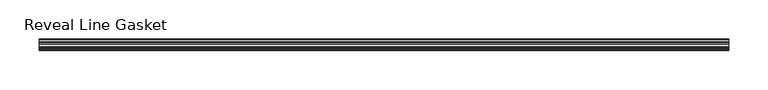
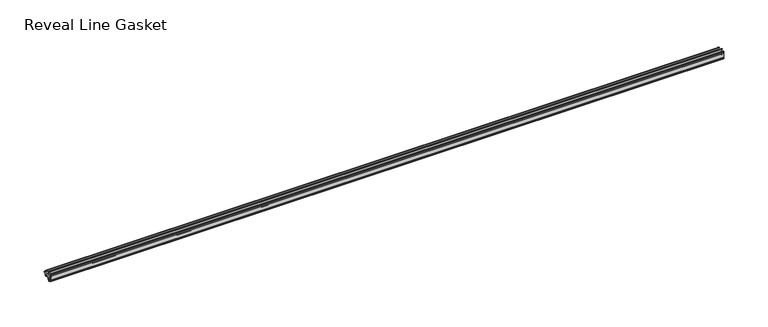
"""IFC4 building model written with IfcOpenShell, lengths in millimetres: proxy geometry, Accessories-Teknion-FHGR-AI_Healthcare-Reveal_Line_Gasket(Horizontal)-R2022 : Reveal Line Gasket."""

import ifcopenshell
import ifcopenshell.guid

model = None  # the IFC model being written
_history = None  # IfcOwnerHistory: only IFC2X3 demands one
_inside = {}  # id of a spatial element -> (the spatial element, [elements in it])
_under = {}  # id of a project, library or spatial element -> (it, [spatial elements below it])
_declared = {}  # id of a project -> (the project, [libraries it declares])
_typed = {}  # id of a type object -> (the type object, [elements of that type])
_made_of = {}  # id of a material, layer set ... -> (it, [elements and type objects made of it])


def new_model(schema):
    """Start an empty IFC model of exactly this schema.

    Asked for "IFC4X3", IfcOpenShell would pick the latest addendum, in which some entities
    have other attributes; the version numbers below select the first issue.
    IFC2X3 requires an IfcOwnerHistory on every rooted entity: one is made here for all.
    """
    global model, _history
    if schema == "IFC4X3":
        model = ifcopenshell.file(schema_version=(4, 3, 0, 0))
    else:
        model = ifcopenshell.file(schema=schema)
    _inside.clear()
    _under.clear()
    _declared.clear()
    _typed.clear()
    _made_of.clear()
    _history = None
    if model.schema == "IFC2X3":
        org = make("IfcOrganization", Name="unknown")
        user = make(
            "IfcPersonAndOrganization",
            ThePerson=make("IfcPerson", FamilyName="unknown"),
            TheOrganization=org,
        )
        app = make(
            "IfcApplication",
            ApplicationDeveloper=org,
            Version="unknown",
            ApplicationFullName="unknown",
            ApplicationIdentifier="unknown",
        )
        _history = make(
            "IfcOwnerHistory",
            OwningUser=user,
            OwningApplication=app,
            ChangeAction="ADDED",
            CreationDate=0,
        )
    return model


def make(cls, **values):
    """One entity of the class cls with the attributes given. An attribute that is None is left unset."""
    return model.create_entity(
        cls, **{name: value for name, value in values.items() if value is not None}
    )


def rooted(cls, **values):
    """An entity with a GlobalId (a new one), such as an element, a storey or a relation."""
    return make(cls, GlobalId=ifcopenshell.guid.new(), OwnerHistory=_history, **values)


def si_unit(unit_type, name, prefix=None):
    """IfcSIUnit, for example si_unit("LENGTHUNIT", "METRE", prefix="MILLI")."""
    return make("IfcSIUnit", UnitType=unit_type, Prefix=prefix, Name=name)


def assignment(units):
    """IfcUnitAssignment: the units of a project."""
    return None if units is None else make("IfcUnitAssignment", Units=units)


def point(xyz):
    """IfcCartesianPoint."""
    return None if xyz is None else make("IfcCartesianPoint", Coordinates=xyz)


def direction(xyz):
    """IfcDirection."""
    return None if xyz is None else make("IfcDirection", DirectionRatios=xyz)


def frame(location, z_axis=None, x_axis=None):
    """IfcAxis2Placement3D, a coordinate frame: its origin and axes. An axis left out is left unset."""
    return make(
        "IfcAxis2Placement3D",
        Location=point(location),
        Axis=direction(z_axis),
        RefDirection=direction(x_axis),
    )


def frame_2d(location, x_axis=None):
    """IfcAxis2Placement2D, a coordinate frame in the plane: its origin and x axis."""
    return make(
        "IfcAxis2Placement2D", Location=point(location), RefDirection=direction(x_axis)
    )


def origin():
    """The frame at (0, 0, 0) with its axes left unset."""
    return frame((0.0, 0.0, 0.0))


def place(relative_to, where):
    """IfcLocalPlacement: puts the frame where relative to a parent placement (None: the world)."""
    return make(
        "IfcLocalPlacement", PlacementRelTo=relative_to, RelativePlacement=where
    )


def context(
    kind, dimensions, precision=None, world=None, true_north=None, identifier=None
):
    """IfcGeometricRepresentationContext, for example the 3D "Model" context."""
    return make(
        "IfcGeometricRepresentationContext",
        ContextIdentifier=identifier,
        ContextType=kind,
        CoordinateSpaceDimension=dimensions,
        Precision=precision,
        WorldCoordinateSystem=world,
        TrueNorth=true_north,
    )


def project(units=None, contexts=None):
    """IfcProject with its units and contexts."""
    return rooted(
        "IfcProject",
        Name="project",
        RepresentationContexts=contexts,
        UnitsInContext=assignment(units),
    )


def spatial(cls, under=None, at=None, **own):
    """A site, building, storey or space (cls), placed at a placement, below another one or the project."""
    s = rooted(cls, ObjectPlacement=at, **own)
    if under is not None:
        _under.setdefault(under.id(), (under, []))[1].append(s)
    return s


def polyline(points):
    """IfcPolyline through the points."""
    return make("IfcPolyline", Points=[point(p) for p in points])


def circle_curve(where, radius):
    """IfcCircle in the frame where."""
    return make("IfcCircle", Position=where, Radius=radius)


def trimmed(basis, trim1, trim2, sense, master):
    """IfcTrimmedCurve: the piece of a basis curve between two trims."""
    return make(
        "IfcTrimmedCurve",
        BasisCurve=basis,
        Trim1=trim1,
        Trim2=trim2,
        SenseAgreement=sense,
        MasterRepresentation=master,
    )


def segment(curve, same_sense, transition):
    """IfcCompositeCurveSegment."""
    return make(
        "IfcCompositeCurveSegment",
        Transition=transition,
        SameSense=same_sense,
        ParentCurve=curve,
    )


def composite_curve(segments, self_intersect=None):
    """IfcCompositeCurve: segments joined end to end."""
    return make("IfcCompositeCurve", Segments=segments, SelfIntersect=self_intersect)


def outline(outer, holes=None, kind="AREA"):
    """IfcArbitraryClosedProfileDef: a profile drawn as a closed curve; with holes, ...WithVoids."""
    if holes is None:
        return make("IfcArbitraryClosedProfileDef", ProfileType=kind, OuterCurve=outer)
    return make(
        "IfcArbitraryProfileDefWithVoids",
        ProfileType=kind,
        OuterCurve=outer,
        InnerCurves=holes,
    )


def extrude(swept, where, along, depth):
    """IfcExtrudedAreaSolid: the profile swept, set in the frame where, extruded along a direction by depth."""
    return make(
        "IfcExtrudedAreaSolid",
        SweptArea=swept,
        Position=where,
        ExtrudedDirection=direction(along),
        Depth=depth,
    )


def shape(context_of_items, identifier, shape_type, items):
    """IfcShapeRepresentation: the items that make up one representation, for example the "Body"."""
    return make(
        "IfcShapeRepresentation",
        ContextOfItems=context_of_items,
        RepresentationIdentifier=identifier,
        RepresentationType=shape_type,
        Items=items,
    )


def source(mapping_origin, context_of_items, identifier, shape_type, items):
    """IfcRepresentationMap: a shape defined once, which mapped items show again and again."""
    return make(
        "IfcRepresentationMap",
        MappingOrigin=mapping_origin,
        MappedRepresentation=shape(context_of_items, identifier, shape_type, items),
    )


def transform(
    local_origin,
    x_axis=None,
    y_axis=None,
    z_axis=None,
    scale=None,
    scale2=None,
    scale3=None,
    uniform=True,
):
    """IfcCartesianTransformationOperator3D, or its non-uniform kind. x_axis, y_axis, z_axis: its Axis1, 2, 3."""
    if uniform:
        return make(
            "IfcCartesianTransformationOperator3D",
            Axis1=direction(x_axis),
            Axis2=direction(y_axis),
            LocalOrigin=point(local_origin),
            Scale=scale,
            Axis3=direction(z_axis),
        )
    return make(
        "IfcCartesianTransformationOperator3DnonUniform",
        Axis1=direction(x_axis),
        Axis2=direction(y_axis),
        LocalOrigin=point(local_origin),
        Scale=scale,
        Axis3=direction(z_axis),
        Scale2=scale2,
        Scale3=scale3,
    )


def mapped(mapping_source, mapping_target):
    """IfcMappedItem: shows the shape of a source again, moved by a transform."""
    return make(
        "IfcMappedItem", MappingSource=mapping_source, MappingTarget=mapping_target
    )


def made_of(thing, what):
    """Note that an element or type object is made of a material, layer set ...; save() writes the relation."""
    if what is not None:
        _made_of.setdefault(what.id(), (what, []))[1].append(thing)
    return thing


def element(
    cls,
    number,
    at=None,
    inside=None,
    cuts=None,
    type_object=None,
    material=None,
    context=None,
    identifier="Body",
    shape_type=None,
    held_by="IfcProductDefinitionShape",
    body=None,
    shapes=None,
    **own,
):
    """One element of the class cls, such as IfcWall. Its Tag is "e" and its number.

    at: its placement. inside: the storey or other place that contains it. cuts: it is an
    opening in that element (IfcRelVoidsElement). A single representation is given by context,
    identifier, shape_type and body (its items); several are given by shapes. held_by: the class
    of the entity that holds the representations. save() writes the other relations.
    """
    e = rooted(cls, Tag="e%d" % number, ObjectPlacement=at, **own)
    if body is not None:
        shapes = [shape(context, identifier, shape_type, body)]
    if shapes is not None:
        e.Representation = make(held_by, Representations=shapes)
    if inside is not None:
        _inside.setdefault(inside.id(), (inside, []))[1].append(e)
    if cuts is not None:
        rooted(
            "IfcRelVoidsElement", RelatingBuildingElement=cuts, RelatedOpeningElement=e
        )
    if type_object is not None:
        _typed.setdefault(type_object.id(), (type_object, []))[1].append(e)
    return made_of(e, material)


def aggregate(whole, parts):
    """IfcRelAggregates: a whole, such as a stair, and the parts it consists of."""
    return rooted("IfcRelAggregates", RelatingObject=whole, RelatedObjects=parts)


def save(model, path):
    """Write the relations noted so far, then the file.

    IfcRelAggregates (storeys below a building ...), IfcRelContainedInSpatialStructure (elements
    in a storey), IfcRelDefinesByType, IfcRelAssociatesMaterial and IfcRelDeclares: one each for
    every whole, place, type object, material and project.
    """
    for whole, parts in _under.values():
        aggregate(whole, parts)
    for where, things in _inside.values():
        rooted(
            "IfcRelContainedInSpatialStructure",
            RelatedElements=things,
            RelatingStructure=where,
        )
    for kind, things in _typed.values():
        rooted("IfcRelDefinesByType", RelatedObjects=things, RelatingType=kind)
    for what, things in _made_of.values():
        rooted("IfcRelAssociatesMaterial", RelatedObjects=things, RelatingMaterial=what)
    for by, libraries in _declared.values():
        rooted("IfcRelDeclares", RelatingContext=by, RelatedDefinitions=libraries)
    model.write(path)


def reveal_line_gasket_fa165ac6(model_context):
    return source(origin(), model_context, "Body", "SweptSolid", [
        extrude(outline(composite_curve([segment(polyline([(-7.6326998, 1603.2), (-7.4091917, 1604.1554927), (-6.8813059, 1605.0884684)]), True, "CONTINUOUS"), segment(trimmed(circle_curve(frame_2d((-6.5243141, 1604.8864793)), 0.4101739), [point((-6.8813059, 1605.0884684))], [point((-6.1246704, 1604.7941347))], False, "CARTESIAN"), True, "CONTINUOUS"), segment(polyline([(-6.1246704, 1604.7941347), (-6.3626997, 1603.0979086), (-6.3626997, 1601.0654527)]), True, "CONTINUOUS"), segment(trimmed(circle_curve(frame_2d((-5.6959605, 1601.4819258)), 0.786124), [point((-6.3626997, 1601.0654527))], [point((-5.0926996, 1600.977875))], True, "CARTESIAN"), True, "CONTINUOUS"), segment(polyline([(-5.0926996, 1600.977875), (-0.7492996, 1600.977875), (-3.7293824, 1606.1395295)]), True, "CONTINUOUS"), segment(trimmed(circle_curve(frame_2d((-3.3132479, 1606.2049761)), 0.4212495), [point((-3.7293824, 1606.1395295))], [point((-3.0485022, 1606.5326358))], False, "CARTESIAN"), True, "CONTINUOUS"), segment(polyline([(-3.0485022, 1606.5326358), (0.5742594, 1600.977875), (4.8262978, 1600.977875), (3.1660374, 1603.8535297)]), True, "CONTINUOUS"), segment(trimmed(circle_curve(frame_2d((3.5978728, 1603.9118855)), 0.4357605), [point((3.1660374, 1603.8535297))], [point((3.864328, 1604.2566881))], False, "CARTESIAN"), True, "CONTINUOUS"), segment(polyline([(3.864328, 1604.2566881), (6.1944059, 1600.977875), (7.6326998, 1600.977875), (7.6326998, 1599.422125), (6.1944059, 1599.422125), (3.864328, 1596.1433119)]), True, "CONTINUOUS"), segment(trimmed(circle_curve(frame_2d((3.5978728, 1596.4881145)), 0.4357605), [point((3.864328, 1596.1433119))], [point((3.1660374, 1596.5464703))], False, "CARTESIAN"), True, "CONTINUOUS"), segment(polyline([(3.1660374, 1596.5464703), (4.8262978, 1599.422125), (0.5742594, 1599.422125), (-3.0485022, 1593.8673642)]), True, "CONTINUOUS"), segment(trimmed(circle_curve(frame_2d((-3.3132479, 1594.1950239)), 0.4212495), [point((-3.0485022, 1593.8673642))], [point((-3.7293824, 1594.2604705))], False, "CARTESIAN"), True, "CONTINUOUS"), segment(polyline([(-3.7293824, 1594.2604705), (-0.7492996, 1599.422125), (-5.0926996, 1599.422125)]), True, "CONTINUOUS"), segment(trimmed(circle_curve(frame_2d((-5.6959605, 1598.9180742)), 0.786124), [point((-5.0926996, 1599.422125))], [point((-6.3626997, 1599.3345473))], True, "CARTESIAN"), True, "CONTINUOUS"), segment(polyline([(-6.3626997, 1599.3345473), (-6.3626997, 1597.3020914), (-6.1246704, 1595.6058653)]), True, "CONTINUOUS"), segment(trimmed(circle_curve(frame_2d((-6.5243141, 1595.5135207)), 0.4101739), [point((-6.1246704, 1595.6058653))], [point((-6.8813059, 1595.3115316))], False, "CARTESIAN"), True, "CONTINUOUS"), segment(polyline([(-6.8813059, 1595.3115316), (-7.4091917, 1596.2445073), (-7.6326998, 1597.2), (-7.6326998, 1603.2)]), True, "CONTINUOUS")], self_intersect=False)), frame((-441.5715701, 0.0, 0.0), z_axis=(1.0, 0.0, 0.0), x_axis=(0.0, 1.0, 0.0)), (0.0, 0.0, 1.0), 883.1431403),
    ])


if __name__ == "__main__":
    model = new_model("IFC4")
    model_context = context("Model", 3, world=origin())
    ifc_project = project(units=[si_unit("LENGTHUNIT", "METRE", prefix="MILLI")], contexts=[model_context])
    site = spatial("IfcSite", under=ifc_project)
    building = spatial("IfcBuilding", under=site)
    placement = place(None, origin())
    reveal_line_gasket_shape = reveal_line_gasket_fa165ac6(model_context)
    element("IfcBuildingElementProxy", 1, Name="Accessories-Teknion-FHGR-AI_Healthcare-Reveal_Line_Gasket(Horizontal)-R2022 : Reveal Line Gasket", ObjectType="Accessories-Teknion-FHGR-AI_Healthcare-Reveal_Line_Gasket(Horizontal)-R2022 : Reveal Line Gasket", at=placement, inside=building, context=model_context, shape_type="MappedRepresentation", body=[
        mapped(reveal_line_gasket_shape, transform((0.0, 0.0, 0.0), x_axis=(1.0, 0.0, 0.0), y_axis=(0.0, 1.0, 0.0), z_axis=(0.0, 0.0, 1.0))),
    ])
    save(model, "model.ifc")
